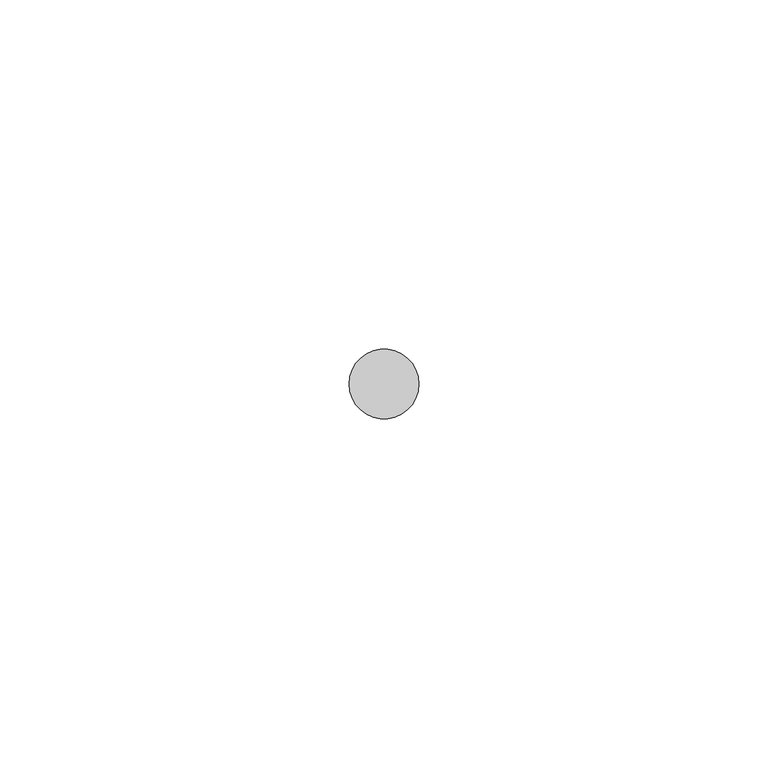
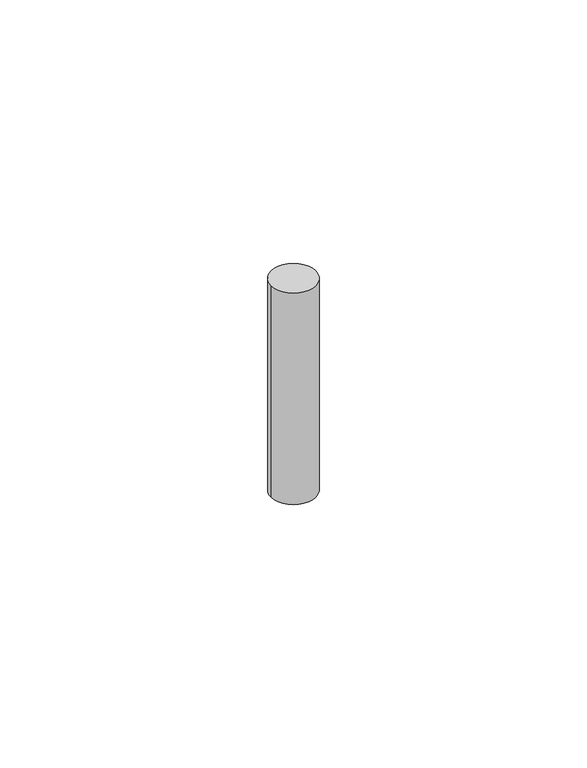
"""IFC4 building model written with IfcOpenShell, lengths in millimetres: pipe fitting geometry, СТ_Вл-3D_Подсчет_Шпилька : СТ_Вл-3D_Подсчет_Шпилька."""

from ifc_helpers import new_model, si_unit, point, origin, origin_with_axes, origin_2d, place, context, project, spatial, circle_curve, trimmed, segment, composite_curve, outline, extrude, source, transform, mapped, element, save


def pipe_fitting_1aa2fc2b(model_context):
    return source(origin(), model_context, "Body", "SweptSolid", [
        extrude(outline(composite_curve([segment(trimmed(circle_curve(origin_2d(), 5.0), [point((-5.0, 0.0))], [point((5.0, 0.0))], False, "CARTESIAN"), True, "CONTINUOUS"), segment(trimmed(circle_curve(origin_2d(), 5.0), [point((5.0, 0.0))], [point((-5.0, 0.0))], False, "CARTESIAN"), True, "CONTINUOUS")], self_intersect=False)), origin_with_axes(), (0.0, 0.0, 1.0), 50.0),
    ])


if __name__ == "__main__":
    model = new_model("IFC4")
    model_context = context("Model", 3, world=origin())
    ifc_project = project(units=[si_unit("LENGTHUNIT", "METRE", prefix="MILLI")], contexts=[model_context])
    site = spatial("IfcSite", under=ifc_project)
    building = spatial("IfcBuilding", under=site)
    placement = place(None, origin())
    pipe_fitting_shape = pipe_fitting_1aa2fc2b(model_context)
    element("IfcPipeFitting", 1, ObjectType="СТ_Вл-3D_Подсчет_Шпилька : СТ_Вл-3D_Подсчет_Шпилька", at=placement, inside=building, context=model_context, shape_type="MappedRepresentation", body=[
        mapped(pipe_fitting_shape, transform((0.0, 0.0, 0.0), x_axis=(1.0, 0.0, 0.0), y_axis=(0.0, 1.0, 0.0), z_axis=(0.0, 0.0, 1.0))),
    ])
    save(model, "model.ifc")
